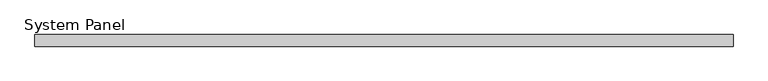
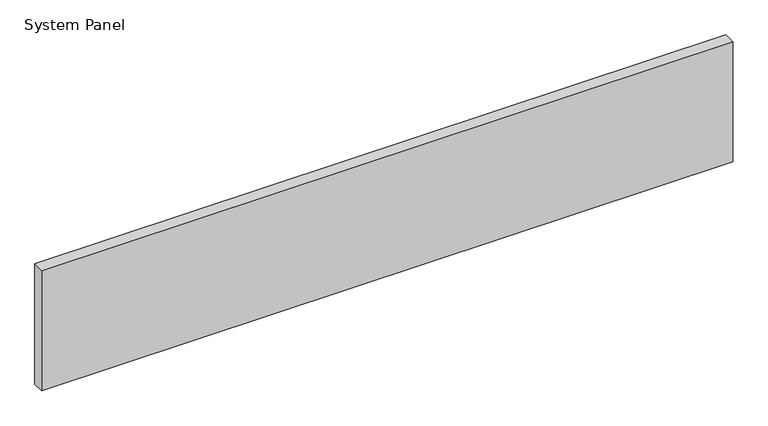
"""IFC4 building model written with IfcOpenShell, lengths in millimetres: plate geometry, System Panel : Inspire 100mm Horizontal - Plain RHEA-PIR."""

from ifc_helpers import new_model, si_unit, origin, origin_with_axes, place, context, project, spatial, polyline, outline, extrude, source, transform, mapped, element, save


def system_panel_95cb4938(model_context):
    return source(origin(), model_context, "Body", "SweptSolid", [
        extrude(outline(polyline([(2995.0, 0.0), (-2995.0, 0.0), (-2995.0, 100.0), (2995.0, 100.0), (2995.0, 0.0)])), origin_with_axes(), (0.0, 0.0, 1.0), 1100.0),
    ])


if __name__ == "__main__":
    model = new_model("IFC4")
    model_context = context("Model", 3, world=origin())
    ifc_project = project(units=[si_unit("LENGTHUNIT", "METRE", prefix="MILLI")], contexts=[model_context])
    site = spatial("IfcSite", under=ifc_project)
    building = spatial("IfcBuilding", under=site)
    placement = place(None, origin())
    system_panel_shape = system_panel_95cb4938(model_context)
    element("IfcPlate", 1, ObjectType="System Panel : Inspire 100mm Horizontal - Plain RHEA-PIR", at=placement, inside=building, context=model_context, shape_type="MappedRepresentation", body=[
        mapped(system_panel_shape, transform((0.0, 0.0, 0.0), x_axis=(1.0, 0.0, 0.0), y_axis=(0.0, 1.0, 0.0), z_axis=(0.0, 0.0, 1.0))),
    ])
    save(model, "model.ifc")
